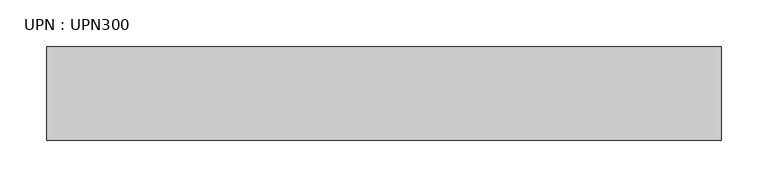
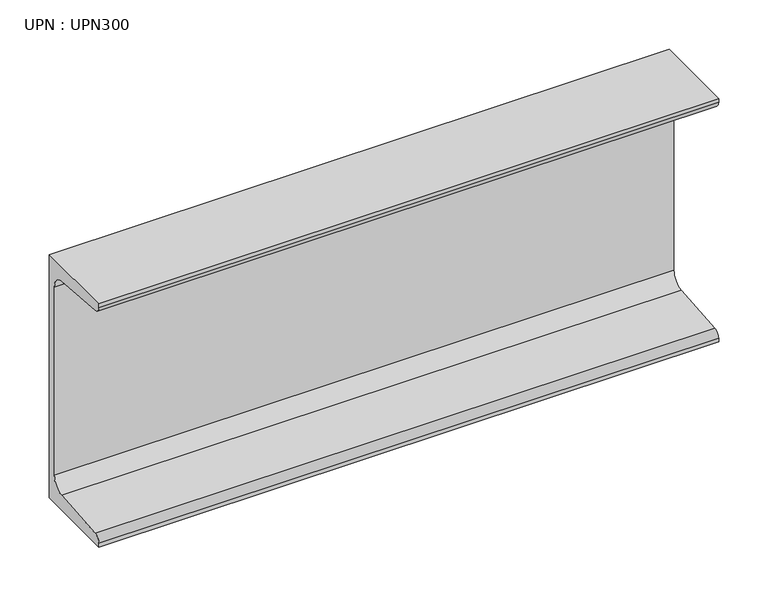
"""IFC4 building model written with IfcOpenShell, lengths in millimetres: beam geometry, UPN : UPN300."""

from ifc_helpers import new_model, si_unit, point, frame, frame_2d, origin, place, context, project, spatial, polyline, circle_curve, trimmed, segment, composite_curve, outline, extrude, source, transform, mapped, element, save


def upn_upn300_64b2cb6b(model_context):
    return source(origin(), model_context, "Body", "SweptSolid", [
        extrude(outline(composite_curve([segment(polyline([(27.0, 150.0), (27.0, -150.0), (-73.0, -150.0), (-73.0, -145.3826224)]), True, "CONTINUOUS"), segment(trimmed(circle_curve(frame_2d((-65.0, -145.3826224)), 8.0), [point((-73.0, -145.3826224))], [point((-65.637416, -137.4080566))], False, "CARTESIAN"), True, "CONTINUOUS"), segment(polyline([(-65.637416, -137.4080566), (2.274832, -131.9797543)]), True, "CONTINUOUS"), segment(trimmed(circle_curve(frame_2d((1.0, -116.0306225)), 16.0), [point((2.274832, -131.9797543))], [point((17.0, -116.0306225))], True, "CARTESIAN"), True, "CONTINUOUS"), segment(polyline([(17.0, -116.0306225), (17.0, 116.0306225)]), True, "CONTINUOUS"), segment(trimmed(circle_curve(frame_2d((1.0, 116.0306225)), 16.0), [point((17.0, 116.0306225))], [point((2.274832, 131.9797543))], True, "CARTESIAN"), True, "CONTINUOUS"), segment(polyline([(2.274832, 131.9797543), (-65.637416, 137.4080566)]), True, "CONTINUOUS"), segment(trimmed(circle_curve(frame_2d((-65.0, 145.3826224)), 8.0), [point((-65.637416, 137.4080566))], [point((-73.0, 145.3826224))], False, "CARTESIAN"), True, "CONTINUOUS"), segment(polyline([(-73.0, 145.3826224), (-73.0, 150.0), (27.0, 150.0)]), True, "CONTINUOUS")], self_intersect=False)), frame((-280.95, 0.0, 0.0), z_axis=(1.0, 0.0, 0.0), x_axis=(0.0, 1.0, 0.0)), (0.0, 0.0, 1.0), 722.6),
    ])


if __name__ == "__main__":
    model = new_model("IFC4")
    model_context = context("Model", 3, world=origin())
    ifc_project = project(units=[si_unit("LENGTHUNIT", "METRE", prefix="MILLI")], contexts=[model_context])
    site = spatial("IfcSite", under=ifc_project)
    building = spatial("IfcBuilding", under=site)
    placement = place(None, origin())
    upn_upn300_shape = upn_upn300_64b2cb6b(model_context)
    element("IfcBeam", 1, ObjectType="UPN : UPN300", at=placement, inside=building, context=model_context, shape_type="MappedRepresentation", body=[
        mapped(upn_upn300_shape, transform((0.0, 0.0, 0.0), x_axis=(1.0, 0.0, 0.0), y_axis=(0.0, 1.0, 0.0), z_axis=(0.0, 0.0, 1.0))),
    ])
    save(model, "model.ifc")
